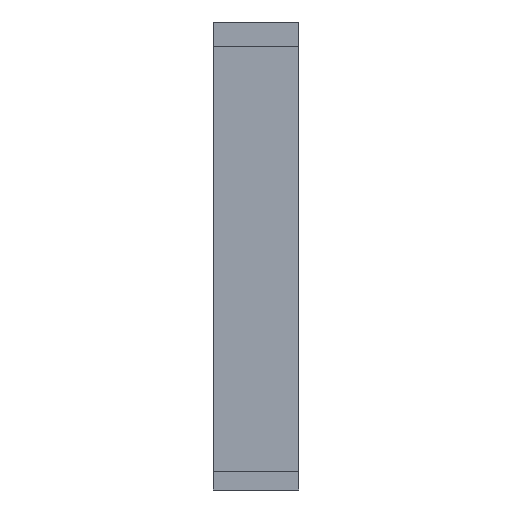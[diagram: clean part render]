
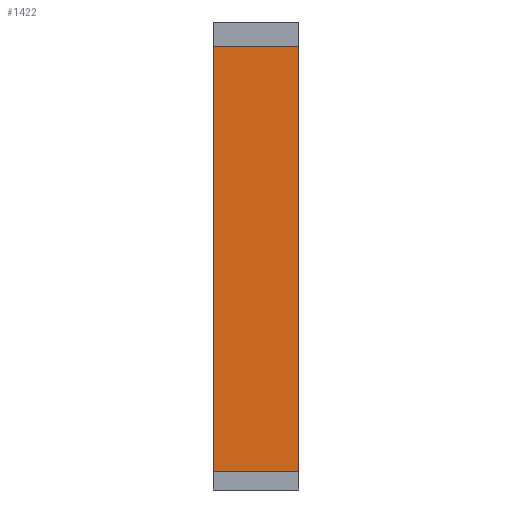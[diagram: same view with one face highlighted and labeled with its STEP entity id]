
A CAD part, left-side view. The second image highlights one B-rep face of the part: STEP entity #1422.
In plain terms, the highlighted planar face has unit normal (-1, 0, 0).
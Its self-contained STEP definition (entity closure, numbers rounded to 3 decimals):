
#44 = PLANE('',#45);
#45 = AXIS2_PLACEMENT_3D('',#46,#47,#48);
#46 = CARTESIAN_POINT('',(-4.,-97.,23.));
#47 = DIRECTION('',(0.,1.,0.));
#48 = DIRECTION('',(0.,0.,1.));
#100 = PLANE('',#101);
#101 = AXIS2_PLACEMENT_3D('',#102,#103,#104);
#102 = CARTESIAN_POINT('',(-4.,-83.,23.));
#103 = DIRECTION('',(0.,1.,0.));
#104 = DIRECTION('',(0.,0.,1.));
#385 = VERTEX_POINT('',#386);
#386 = CARTESIAN_POINT('',(-61.,-97.,26.));
#400 = PLANE('',#401);
#401 = AXIS2_PLACEMENT_3D('',#402,#403,#404);
#402 = CARTESIAN_POINT('',(-64.,-97.,26.));
#403 = DIRECTION('',(0.,0.,1.));
#404 = DIRECTION('',(1.,0.,0.));
#412 = EDGE_CURVE('',#385,#413,#415,.T.);
#413 = VERTEX_POINT('',#414);
#414 = CARTESIAN_POINT('',(-61.,-97.,95.5));
#415 = SURFACE_CURVE('',#416,(#420,#427),.PCURVE_S1.);
#416 = LINE('',#417,#418);
#417 = CARTESIAN_POINT('',(-61.,-97.,23.));
#418 = VECTOR('',#419,1.);
#419 = DIRECTION('',(0.,0.,1.));
#420 = PCURVE('',#44,#421);
#421 = DEFINITIONAL_REPRESENTATION('',(#422),#426);
#422 = LINE('',#423,#424);
#423 = CARTESIAN_POINT('',(0.,-57.));
#424 = VECTOR('',#425,1.);
#425 = DIRECTION('',(1.,0.));
#426 = ( GEOMETRIC_REPRESENTATION_CONTEXT(2) 
PARAMETRIC_REPRESENTATION_CONTEXT() REPRESENTATION_CONTEXT('2D SPACE',''
  ) );
#427 = PCURVE('',#428,#433);
#428 = PLANE('',#429);
#429 = AXIS2_PLACEMENT_3D('',#430,#431,#432);
#430 = CARTESIAN_POINT('',(-61.,-97.,23.));
#431 = DIRECTION('',(1.,0.,0.));
#432 = DIRECTION('',(0.,0.,1.));
#433 = DEFINITIONAL_REPRESENTATION('',(#434),#438);
#434 = LINE('',#435,#436);
#435 = CARTESIAN_POINT('',(0.,0.));
#436 = VECTOR('',#437,1.);
#437 = DIRECTION('',(1.,0.));
#438 = ( GEOMETRIC_REPRESENTATION_CONTEXT(2) 
PARAMETRIC_REPRESENTATION_CONTEXT() REPRESENTATION_CONTEXT('2D SPACE',''
  ) );
#456 = PLANE('',#457);
#457 = AXIS2_PLACEMENT_3D('',#458,#459,#460);
#458 = CARTESIAN_POINT('',(-62.,-97.,95.5));
#459 = DIRECTION('',(0.,0.,1.));
#460 = DIRECTION('',(1.,0.,0.));
#876 = VERTEX_POINT('',#877);
#877 = CARTESIAN_POINT('',(-61.,-83.,26.));
#898 = EDGE_CURVE('',#876,#899,#901,.T.);
#899 = VERTEX_POINT('',#900);
#900 = CARTESIAN_POINT('',(-61.,-83.,95.5));
#901 = SURFACE_CURVE('',#902,(#906,#913),.PCURVE_S1.);
#902 = LINE('',#903,#904);
#903 = CARTESIAN_POINT('',(-61.,-83.,23.));
#904 = VECTOR('',#905,1.);
#905 = DIRECTION('',(0.,0.,1.));
#906 = PCURVE('',#100,#907);
#907 = DEFINITIONAL_REPRESENTATION('',(#908),#912);
#908 = LINE('',#909,#910);
#909 = CARTESIAN_POINT('',(0.,-57.));
#910 = VECTOR('',#911,1.);
#911 = DIRECTION('',(1.,0.));
#912 = ( GEOMETRIC_REPRESENTATION_CONTEXT(2) 
PARAMETRIC_REPRESENTATION_CONTEXT() REPRESENTATION_CONTEXT('2D SPACE',''
  ) );
#913 = PCURVE('',#428,#914);
#914 = DEFINITIONAL_REPRESENTATION('',(#915),#919);
#915 = LINE('',#916,#917);
#916 = CARTESIAN_POINT('',(0.,-14.));
#917 = VECTOR('',#918,1.);
#918 = DIRECTION('',(1.,0.));
#919 = ( GEOMETRIC_REPRESENTATION_CONTEXT(2) 
PARAMETRIC_REPRESENTATION_CONTEXT() REPRESENTATION_CONTEXT('2D SPACE',''
  ) );
#1404 = EDGE_CURVE('',#876,#385,#1405,.T.);
#1405 = SURFACE_CURVE('',#1406,(#1410,#1416),.PCURVE_S1.);
#1406 = LINE('',#1407,#1408);
#1407 = CARTESIAN_POINT('',(-61.,-97.,26.));
#1408 = VECTOR('',#1409,1.);
#1409 = DIRECTION('',(0.,-1.,0.));
#1410 = PCURVE('',#400,#1411);
#1411 = DEFINITIONAL_REPRESENTATION('',(#1412),#1415);
#1412 = B_SPLINE_CURVE_WITH_KNOTS('',1,(#1413,#1414),.UNSPECIFIED.,.F.,
  .F.,(2,2),(-14.,0.),.PIECEWISE_BEZIER_KNOTS.);
#1413 = CARTESIAN_POINT('',(3.,14.));
#1414 = CARTESIAN_POINT('',(3.,0.));
#1415 = ( GEOMETRIC_REPRESENTATION_CONTEXT(2) 
PARAMETRIC_REPRESENTATION_CONTEXT() REPRESENTATION_CONTEXT('2D SPACE',''
  ) );
#1416 = PCURVE('',#428,#1417);
#1417 = DEFINITIONAL_REPRESENTATION('',(#1418),#1421);
#1418 = B_SPLINE_CURVE_WITH_KNOTS('',1,(#1419,#1420),.UNSPECIFIED.,.F.,
  .F.,(2,2),(-14.,0.),.PIECEWISE_BEZIER_KNOTS.);
#1419 = CARTESIAN_POINT('',(3.,-14.));
#1420 = CARTESIAN_POINT('',(3.,0.));
#1421 = ( GEOMETRIC_REPRESENTATION_CONTEXT(2) 
PARAMETRIC_REPRESENTATION_CONTEXT() REPRESENTATION_CONTEXT('2D SPACE',''
  ) );
#1422 = ADVANCED_FACE('',(#1423),#428,.F.);
#1423 = FACE_BOUND('',#1424,.F.);
#1424 = EDGE_LOOP('',(#1425,#1426,#1427,#1428));
#1425 = ORIENTED_EDGE('',*,*,#412,.F.);
#1426 = ORIENTED_EDGE('',*,*,#1404,.F.);
#1427 = ORIENTED_EDGE('',*,*,#898,.T.);
#1428 = ORIENTED_EDGE('',*,*,#1429,.F.);
#1429 = EDGE_CURVE('',#413,#899,#1430,.T.);
#1430 = SURFACE_CURVE('',#1431,(#1435,#1441),.PCURVE_S1.);
#1431 = LINE('',#1432,#1433);
#1432 = CARTESIAN_POINT('',(-61.,-97.,95.5));
#1433 = VECTOR('',#1434,1.);
#1434 = DIRECTION('',(0.,1.,0.));
#1435 = PCURVE('',#428,#1436);
#1436 = DEFINITIONAL_REPRESENTATION('',(#1437),#1440);
#1437 = B_SPLINE_CURVE_WITH_KNOTS('',1,(#1438,#1439),.UNSPECIFIED.,.F.,
  .F.,(2,2),(0.,14.),.PIECEWISE_BEZIER_KNOTS.);
#1438 = CARTESIAN_POINT('',(72.5,0.));
#1439 = CARTESIAN_POINT('',(72.5,-14.));
#1440 = ( GEOMETRIC_REPRESENTATION_CONTEXT(2) 
PARAMETRIC_REPRESENTATION_CONTEXT() REPRESENTATION_CONTEXT('2D SPACE',''
  ) );
#1441 = PCURVE('',#456,#1442);
#1442 = DEFINITIONAL_REPRESENTATION('',(#1443),#1446);
#1443 = B_SPLINE_CURVE_WITH_KNOTS('',1,(#1444,#1445),.UNSPECIFIED.,.F.,
  .F.,(2,2),(0.,14.),.PIECEWISE_BEZIER_KNOTS.);
#1444 = CARTESIAN_POINT('',(1.,0.));
#1445 = CARTESIAN_POINT('',(1.,14.));
#1446 = ( GEOMETRIC_REPRESENTATION_CONTEXT(2) 
PARAMETRIC_REPRESENTATION_CONTEXT() REPRESENTATION_CONTEXT('2D SPACE',''
  ) );
